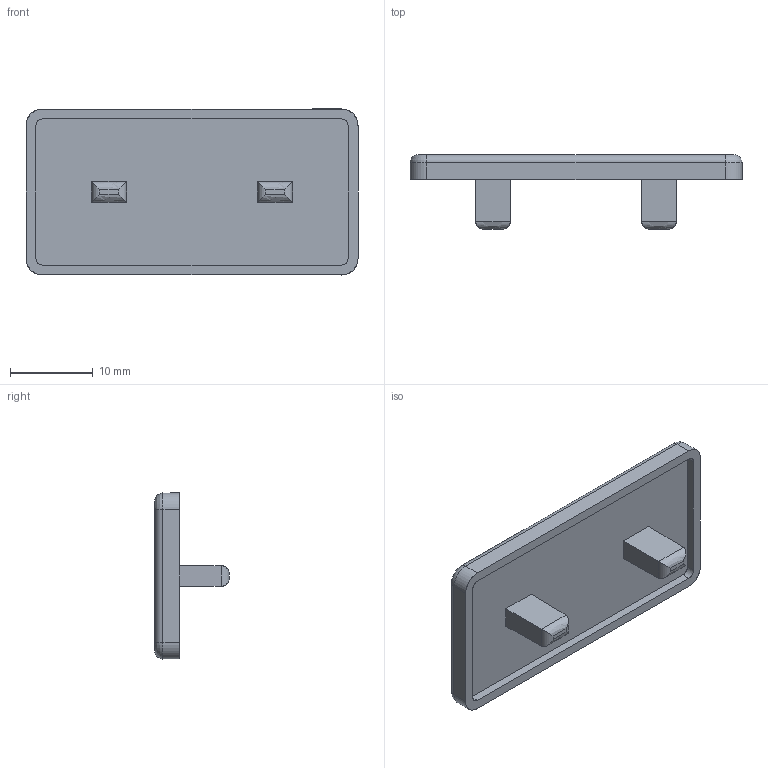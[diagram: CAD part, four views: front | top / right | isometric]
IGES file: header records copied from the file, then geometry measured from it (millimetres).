
Start section: SolidWorks IGES file using analytic representation for surfaces
Global section: file name: C:\Users\admin\Desktop\IGES\J2C4.igs; native system: SolidWorks 2014; preprocessor: SolidWorks 2014; author: admin_pc; date: 170524.165203; units: millimetre
Bounding box: 40 x 9 x 20 mm (x, y, z)
Surface area: 2177.2 mm2 (no closed solid volume)
Topology: 0 solids, 0 shells, 45 faces, 352 edges, 352 vertices
Faces by surface type: bspline 25, revolution 20
